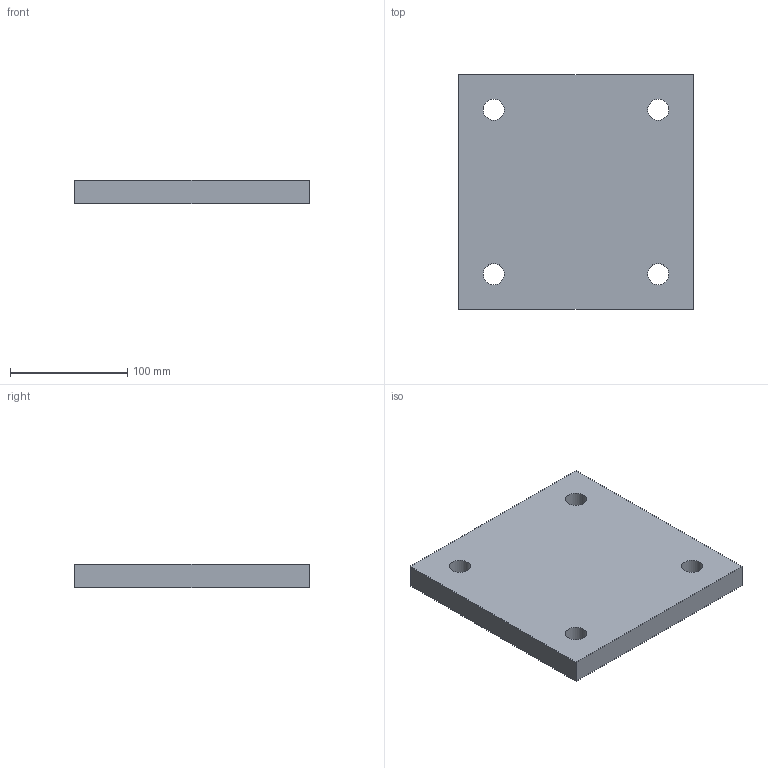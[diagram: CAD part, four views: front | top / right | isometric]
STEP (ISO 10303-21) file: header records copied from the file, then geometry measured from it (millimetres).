
FILE_DESCRIPTION(('Open CASCADE Model'),'2;1');
FILE_NAME('Open CASCADE Shape Model','2026-10-15T15:10:04',('Author'),( 'Open CASCADE'),'Open CASCADE STEP processor 8.0','Open CASCADE 8.0' ,'Unknown');
FILE_SCHEMA(('AUTOMOTIVE_DESIGN { 1 0 10303 214 1 1 1 1 }'));
Length unit declared in the file: millimetre
Products named in the file (1): P02_BASE_ACCESO_200x200x12_P05 45
Bounding box: 200 x 200 x 20 mm (x, y, z)
Volume: 779642.5 mm3; surface area: 98488.1 mm2
Topology: 1 solids, 1 shells, 10 faces, 24 edges, 16 vertices
Faces by surface type: plane 6, cylinder 4
Full cylindrical faces by diameter (mm): 18 x4
Entity records: 634 total; most frequent: DIRECTION 102, CARTESIAN_POINT 99, LINE 56, VECTOR 56, ORIENTED_EDGE 48, PCURVE 48, DEFINITIONAL_REPRESENTATION 48, EDGE_CURVE 24
